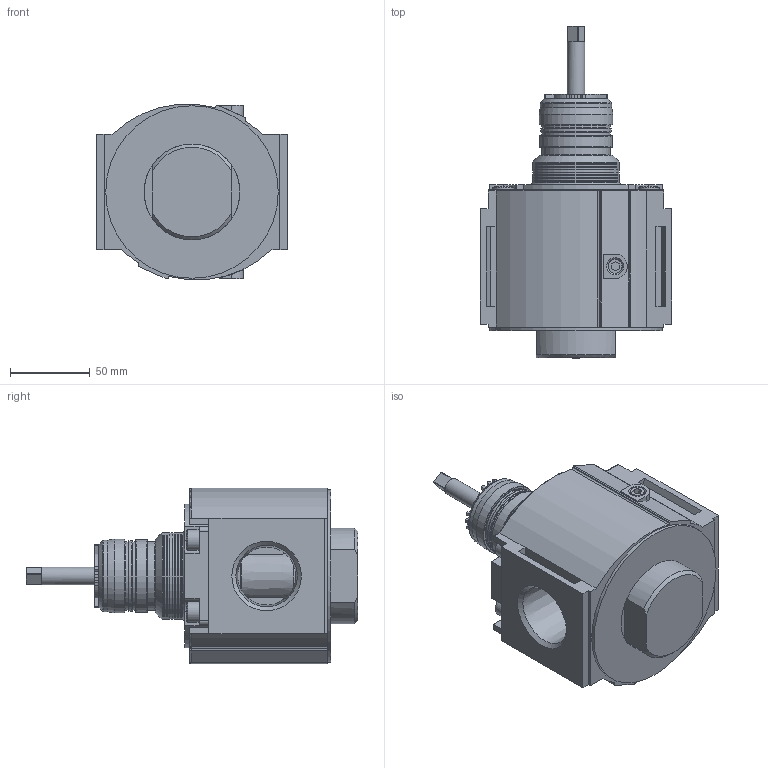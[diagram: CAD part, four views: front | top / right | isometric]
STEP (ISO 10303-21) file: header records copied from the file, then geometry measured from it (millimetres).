
FILE_DESCRIPTION(/* description */ (''),/* implementation_level */ '2;1');
FILE_NAME(/* name */ 'R530.step',/* time_stamp */ '2024-01-04T07:02:21+01:00',/* author */ (''),/* organization */ (''),/* preprocessor_version */ 'ST-DEVELOPER v20',/* originating_system */ 'Autodesk Translation Framework v12.14.0.127',/* authorisation */ '');
FILE_SCHEMA (('AUTOMOTIVE_DESIGN { 1 0 10303 214 3 1 1 }'));
Length unit declared in the file: millimetre
Products named in the file (9): (Nicht gespeichert); SN-2801-01-04 BODY-CASTING R70; SN-2838-01-BONNET-CASTING; Socket Head Cap Screw_AM_B18.3.1M - 8 x 1.25 x 20 Hex SHCS -- 20NHX; SN-2736-01 GRUB_SCREW; SN-3014-35 ORING LOUVER; SN-2989-01-04-DUMMY-CAP-R70; SN-4757-01-11_SCREW ADJUSTING SQUARE HEAD; R70 BOTTOM PLUG IN METAL
Assembly tree (12 placements, depth 2):
  (Nicht gespeichert)
    SN-2801-01-04 BODY-CASTING R70
    SN-2838-01-BONNET-CASTING
    Socket Head Cap Screw_AM_B18.3.1M - 8 x 1.25 x 20 Hex SHCS -- 20NHX  x4
    SN-2736-01 GRUB_SCREW  x2
    SN-3014-35 ORING LOUVER
    SN-2989-01-04-DUMMY-CAP-R70
    SN-4757-01-11_SCREW ADJUSTING SQUARE HEAD
    R70 BOTTOM PLUG IN METAL
Bounding box: 120 x 207.75 x 109.77 mm (x, y, z)
Volume: 678647.7 mm3; surface area: 196009.1 mm2
Topology: 12 solids, 12 shells, 919 faces, 2367 edges, 1527 vertices
Faces by surface type: plane 529, cylinder 152, bspline 103, cone 87, torus 48
Full cylindrical faces by diameter (mm): 6.7 x4, 8 x4, 8.5 x1, 8.64 x2, 8.788 x2, 10.16 x1, 10.4 x1, 10.9 x1, 11.4 x1, 11.7 x1, 11.81 x1, 12.7 x1, 13 x4, 15.8 x1, 17.5 x1, 18.4 x1, 25 x1, 26 x1, 42 x1, 42.877 x1, 42.899 x2, 44.2 x1, 44.713 x1, 45.694 x1, 46.25 x1, 48 x1, 51 x1, 54.3 x8, 54.59 x2, 54.761 x5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
Entity records: 32521 total; most frequent: CARTESIAN_POINT 11777, ORIENTED_EDGE 4396, DIRECTION 4027, EDGE_CURVE 2198, VERTEX_POINT 1429, AXIS2_PLACEMENT_3D 1360, LINE 1307, VECTOR 1307
